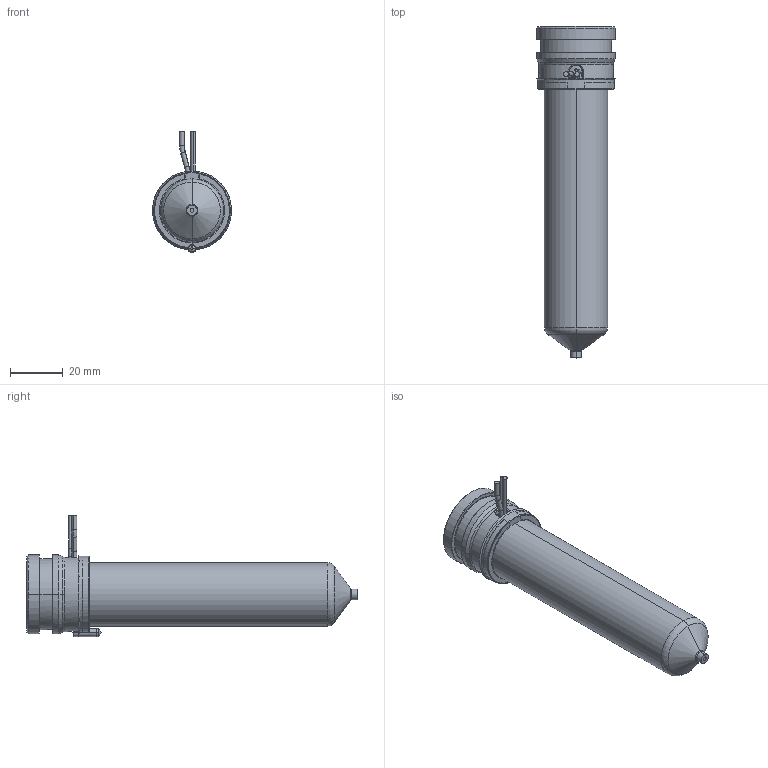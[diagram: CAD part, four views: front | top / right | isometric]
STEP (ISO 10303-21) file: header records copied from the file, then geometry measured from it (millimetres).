
FILE_DESCRIPTION((''),'2;1');
FILE_NAME('MPN-10-29-VP4-106-A','2026-02-05T12:42:42',('UPTIO'),('Thermoplay S.p.A.'),'CREO PARAMETRIC BY PTC INC, 2023494','CREO PARAMETRIC BY PTC INC, 2023494','');
FILE_SCHEMA(('CONFIG_CONTROL_DESIGN','SHAPE_APPEARANCE_LAYERS_GROUPS'));
Length unit declared in the file: millimetre
Products named in the file (1): MPN-10-29-VP4-106-A
Bounding box: 30 x 126.1 x 46 mm (x, y, z)
Volume: 39949.1 mm3; surface area: 40149.7 mm2
Topology: 2 solids, 3 shells, 582 faces, 1548 edges, 964 vertices
Faces by surface type: cylinder 180, plane 155, bspline 98, torus 70, cone 68, sphere 7, extrusion 4
Entity records: 30001 total; most frequent: CARTESIAN_POINT 13050, ORIENTED_EDGE 3084, DIRECTION 2695, EDGE_CURVE 1542, AXIS2_PLACEMENT_3D 1065, VERTEX_POINT 964, EDGE_LOOP 610, CIRCLE 584
